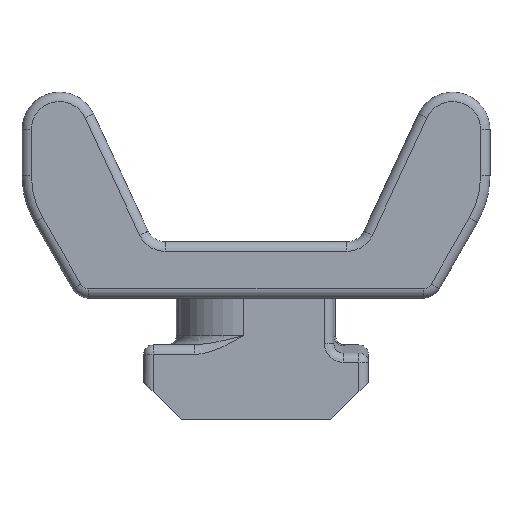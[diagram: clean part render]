
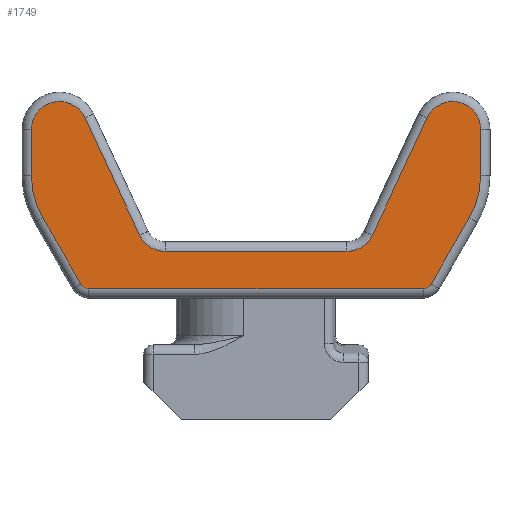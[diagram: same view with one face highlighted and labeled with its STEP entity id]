
A CAD part, left-side view. The second image highlights one B-rep face of the part: STEP entity #1749.
In plain terms, the highlighted planar face has unit normal (-1, 0, 0).
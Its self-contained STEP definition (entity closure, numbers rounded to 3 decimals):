
#26 = CARTESIAN_POINT ( 'NONE',  ( -7.5, -4.856, 4. ) ) ;
#28 = CARTESIAN_POINT ( 'NONE',  ( -7.5, -9.354, 0.75 ) ) ;
#48 = VERTEX_POINT ( 'NONE', #2763 ) ;
#92 = DIRECTION ( 'NONE',  ( 0., 0., -1. ) ) ;
#95 = CARTESIAN_POINT ( 'NONE',  ( -7.5, 4.856, 2.5 ) ) ;
#121 = VERTEX_POINT ( 'NONE', #1798 ) ;
#189 = DIRECTION ( 'NONE',  ( 0., 0., -1. ) ) ;
#220 = DIRECTION ( 'NONE',  ( -1., 0., 0. ) ) ;
#237 = AXIS2_PLACEMENT_3D ( 'NONE', #831, #557, #189 ) ;
#246 = CARTESIAN_POINT ( 'NONE',  ( -7.5, -6.216, 3.366 ) ) ;
#248 = ORIENTED_EDGE ( 'NONE', *, *, #1674, .T. ) ;
#291 = VERTEX_POINT ( 'NONE', #1678 ) ;
#313 = EDGE_CURVE ( 'NONE', #291, #1148, #1354, .T. ) ;
#337 = EDGE_CURVE ( 'NONE', #420, #2784, #2335, .T. ) ;
#371 = VERTEX_POINT ( 'NONE', #1660 ) ;
#406 = CARTESIAN_POINT ( 'NONE',  ( -7.5, 4.856, 4. ) ) ;
#420 = VERTEX_POINT ( 'NONE', #1789 ) ;
#434 = VECTOR ( 'NONE', #2090, 1000. ) ;
#497 = AXIS2_PLACEMENT_3D ( 'NONE', #1308, #3217, #3465 ) ;
#557 = DIRECTION ( 'NONE',  ( -1., 0., 0. ) ) ;
#608 = DIRECTION ( 'NONE',  ( 0., -0.5, 0.866 ) ) ;
#697 = CARTESIAN_POINT ( 'NONE',  ( -7.5, -11.998, 9. ) ) ;
#713 = VECTOR ( 'NONE', #2453, 1000. ) ;
#720 = DIRECTION ( 'NONE',  ( 0., -0.5, -0.866 ) ) ;
#770 = ORIENTED_EDGE ( 'NONE', *, *, #1520, .T. ) ;
#786 = EDGE_CURVE ( 'NONE', #2086, #2678, #1761, .T. ) ;
#813 = CARTESIAN_POINT ( 'NONE',  ( -7.5, -8.921, 0.5 ) ) ;
#815 = DIRECTION ( 'NONE',  ( 0., 0.423, 0.906 ) ) ;
#824 = CARTESIAN_POINT ( 'NONE',  ( -7.5, 10.498, 9. ) ) ;
#831 = CARTESIAN_POINT ( 'NONE',  ( -7.5, -10.498, 9. ) ) ;
#890 = CARTESIAN_POINT ( 'NONE',  ( -7.5, 9.354, 0.75 ) ) ;
#957 = CIRCLE ( 'NONE', #2500, 0.5 ) ;
#962 = VECTOR ( 'NONE', #608, 1000. ) ;
#964 = CARTESIAN_POINT ( 'NONE',  ( -7.5, 11.395, 4.286 ) ) ;
#968 = ORIENTED_EDGE ( 'NONE', *, *, #337, .T. ) ;
#989 = ORIENTED_EDGE ( 'NONE', *, *, #313, .T. ) ;
#995 = CARTESIAN_POINT ( 'NONE',  ( -7.5, 7.498, 6.536 ) ) ;
#1005 = DIRECTION ( 'NONE',  ( 0., 0., -1. ) ) ;
#1009 = LINE ( 'NONE', #3788, #3749 ) ;
#1014 = ORIENTED_EDGE ( 'NONE', *, *, #2198, .T. ) ;
#1027 = DIRECTION ( 'NONE',  ( 1., 0., 0. ) ) ;
#1042 = LINE ( 'NONE', #813, #434 ) ;
#1081 = EDGE_CURVE ( 'NONE', #48, #1832, #1231, .T. ) ;
#1107 = CIRCLE ( 'NONE', #237, 1.5 ) ;
#1148 = VERTEX_POINT ( 'NONE', #2386 ) ;
#1202 = DIRECTION ( 'NONE',  ( 0., 0., -1. ) ) ;
#1216 = EDGE_CURVE ( 'NONE', #121, #371, #1042, .T. ) ;
#1227 = AXIS2_PLACEMENT_3D ( 'NONE', #824, #220, #1202 ) ;
#1231 = CIRCLE ( 'NONE', #1837, 4.5 ) ;
#1261 = ORIENTED_EDGE ( 'NONE', *, *, #1311, .T. ) ;
#1308 = CARTESIAN_POINT ( 'NONE',  ( -7.5, -6.993, 4.135 ) ) ;
#1311 = EDGE_CURVE ( 'NONE', #3130, #420, #3366, .T. ) ;
#1341 = EDGE_CURVE ( 'NONE', #2784, #3927, #1107, .T. ) ;
#1345 = DIRECTION ( 'NONE',  ( -1., 0., 0. ) ) ;
#1354 = CIRCLE ( 'NONE', #3080, 1.5 ) ;
#1412 = CARTESIAN_POINT ( 'NONE',  ( -7.5, -11.395, 4.286 ) ) ;
#1440 = ORIENTED_EDGE ( 'NONE', *, *, #1341, .T. ) ;
#1498 = DIRECTION ( 'NONE',  ( -1., 0., 0. ) ) ;
#1520 = EDGE_CURVE ( 'NONE', #3135, #48, #1009, .T. ) ;
#1575 = CIRCLE ( 'NONE', #3839, 0.5 ) ;
#1587 = DIRECTION ( 'NONE',  ( 0., 1., 0. ) ) ;
#1606 = CARTESIAN_POINT ( 'NONE',  ( -7.5, 4.856, 2.5 ) ) ;
#1612 = CARTESIAN_POINT ( 'NONE',  ( -7.5, -9.139, 9.634 ) ) ;
#1653 = LINE ( 'NONE', #1606, #1771 ) ;
#1660 = CARTESIAN_POINT ( 'NONE',  ( -7.5, -8.921, 0.5 ) ) ;
#1669 = DIRECTION ( 'NONE',  ( -1., 0., 0. ) ) ;
#1674 = EDGE_CURVE ( 'NONE', #2678, #3135, #2491, .T. ) ;
#1678 = CARTESIAN_POINT ( 'NONE',  ( -7.5, -6.216, 3.366 ) ) ;
#1749 = ADVANCED_FACE ( 'NONE', ( #2142 ), #1939, .F. ) ;
#1753 = VERTEX_POINT ( 'NONE', #28 ) ;
#1761 = LINE ( 'NONE', #2017, #2037 ) ;
#1771 = VECTOR ( 'NONE', #1587, 1000. ) ;
#1789 = CARTESIAN_POINT ( 'NONE',  ( -7.5, -11.998, 6.536 ) ) ;
#1798 = CARTESIAN_POINT ( 'NONE',  ( -7.5, 8.921, 0.5 ) ) ;
#1832 = VERTEX_POINT ( 'NONE', #964 ) ;
#1837 = AXIS2_PLACEMENT_3D ( 'NONE', #995, #1669, #2925 ) ;
#1857 = CARTESIAN_POINT ( 'NONE',  ( -7.5, -11.998, 9. ) ) ;
#1939 = PLANE ( 'NONE',  #497 ) ;
#1989 = DIRECTION ( 'NONE',  ( 0., 0., -1. ) ) ;
#1990 = EDGE_CURVE ( 'NONE', #1832, #2082, #2934, .T. ) ;
#2017 = CARTESIAN_POINT ( 'NONE',  ( -7.5, 9.139, 9.634 ) ) ;
#2037 = VECTOR ( 'NONE', #815, 1000. ) ;
#2081 = CARTESIAN_POINT ( 'NONE',  ( -7.5, 11.998, 9. ) ) ;
#2082 = VERTEX_POINT ( 'NONE', #890 ) ;
#2086 = VERTEX_POINT ( 'NONE', #2783 ) ;
#2090 = DIRECTION ( 'NONE',  ( 0., -1., 0. ) ) ;
#2142 = FACE_OUTER_BOUND ( 'NONE', #4119, .T. ) ;
#2170 = ORIENTED_EDGE ( 'NONE', *, *, #786, .T. ) ;
#2178 = CIRCLE ( 'NONE', #2717, 1.5 ) ;
#2198 = EDGE_CURVE ( 'NONE', #1148, #3176, #1653, .T. ) ;
#2335 = LINE ( 'NONE', #697, #3350 ) ;
#2347 = ORIENTED_EDGE ( 'NONE', *, *, #4064, .T. ) ;
#2353 = CARTESIAN_POINT ( 'NONE',  ( -7.5, -8.921, 1. ) ) ;
#2363 = CARTESIAN_POINT ( 'NONE',  ( -7.5, 9.139, 9.634 ) ) ;
#2386 = CARTESIAN_POINT ( 'NONE',  ( -7.5, -4.856, 2.5 ) ) ;
#2420 = CARTESIAN_POINT ( 'NONE',  ( -7.5, -7.498, 6.536 ) ) ;
#2453 = DIRECTION ( 'NONE',  ( 0., 0.423, -0.906 ) ) ;
#2491 = CIRCLE ( 'NONE', #1227, 1.5 ) ;
#2500 = AXIS2_PLACEMENT_3D ( 'NONE', #2922, #3851, #1989 ) ;
#2531 = EDGE_CURVE ( 'NONE', #2082, #121, #957, .T. ) ;
#2603 = CARTESIAN_POINT ( 'NONE',  ( -7.5, -11.395, 4.286 ) ) ;
#2631 = VECTOR ( 'NONE', #720, 1000. ) ;
#2678 = VERTEX_POINT ( 'NONE', #2363 ) ;
#2717 = AXIS2_PLACEMENT_3D ( 'NONE', #406, #3576, #92 ) ;
#2740 = CARTESIAN_POINT ( 'NONE',  ( -7.5, 9.354, 0.75 ) ) ;
#2763 = CARTESIAN_POINT ( 'NONE',  ( -7.5, 11.998, 6.536 ) ) ;
#2783 = CARTESIAN_POINT ( 'NONE',  ( -7.5, 6.216, 3.366 ) ) ;
#2784 = VERTEX_POINT ( 'NONE', #1857 ) ;
#2804 = LINE ( 'NONE', #246, #713 ) ;
#2810 = DIRECTION ( 'NONE',  ( 0., 0., -1. ) ) ;
#2829 = ORIENTED_EDGE ( 'NONE', *, *, #1081, .T. ) ;
#2922 = CARTESIAN_POINT ( 'NONE',  ( -7.5, 8.921, 1. ) ) ;
#2923 = EDGE_CURVE ( 'NONE', #1753, #3130, #3996, .T. ) ;
#2925 = DIRECTION ( 'NONE',  ( 0., 0., -1. ) ) ;
#2934 = LINE ( 'NONE', #2740, #2631 ) ;
#3080 = AXIS2_PLACEMENT_3D ( 'NONE', #26, #1027, #1005 ) ;
#3130 = VERTEX_POINT ( 'NONE', #1412 ) ;
#3135 = VERTEX_POINT ( 'NONE', #2081 ) ;
#3176 = VERTEX_POINT ( 'NONE', #95 ) ;
#3217 = DIRECTION ( 'NONE',  ( 1., 0., 0. ) ) ;
#3319 = ORIENTED_EDGE ( 'NONE', *, *, #1990, .T. ) ;
#3350 = VECTOR ( 'NONE', #3821, 1000. ) ;
#3366 = CIRCLE ( 'NONE', #3897, 4.5 ) ;
#3465 = DIRECTION ( 'NONE',  ( 0., 1., 0. ) ) ;
#3576 = DIRECTION ( 'NONE',  ( 1., 0., 0. ) ) ;
#3591 = ORIENTED_EDGE ( 'NONE', *, *, #3832, .T. ) ;
#3605 = ORIENTED_EDGE ( 'NONE', *, *, #2531, .T. ) ;
#3683 = ORIENTED_EDGE ( 'NONE', *, *, #2923, .T. ) ;
#3749 = VECTOR ( 'NONE', #3805, 1000. ) ;
#3788 = CARTESIAN_POINT ( 'NONE',  ( -7.5, 11.998, 6.536 ) ) ;
#3805 = DIRECTION ( 'NONE',  ( 0., 0., -1. ) ) ;
#3821 = DIRECTION ( 'NONE',  ( 0., 0., 1. ) ) ;
#3832 = EDGE_CURVE ( 'NONE', #3927, #291, #2804, .T. ) ;
#3837 = ORIENTED_EDGE ( 'NONE', *, *, #1216, .T. ) ;
#3839 = AXIS2_PLACEMENT_3D ( 'NONE', #2353, #1345, #3949 ) ;
#3851 = DIRECTION ( 'NONE',  ( -1., 0., 0. ) ) ;
#3897 = AXIS2_PLACEMENT_3D ( 'NONE', #2420, #1498, #2810 ) ;
#3927 = VERTEX_POINT ( 'NONE', #1612 ) ;
#3939 = ORIENTED_EDGE ( 'NONE', *, *, #4032, .T. ) ;
#3949 = DIRECTION ( 'NONE',  ( 0., 0., -1. ) ) ;
#3996 = LINE ( 'NONE', #2603, #962 ) ;
#4032 = EDGE_CURVE ( 'NONE', #371, #1753, #1575, .T. ) ;
#4064 = EDGE_CURVE ( 'NONE', #3176, #2086, #2178, .T. ) ;
#4119 = EDGE_LOOP ( 'NONE', ( #3683, #1261, #968, #1440, #3591, #989, #1014, #2347, #2170, #248, #770, #2829, #3319, #3605, #3837, #3939 ) ) ;
